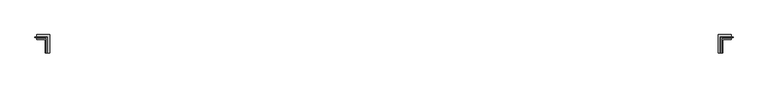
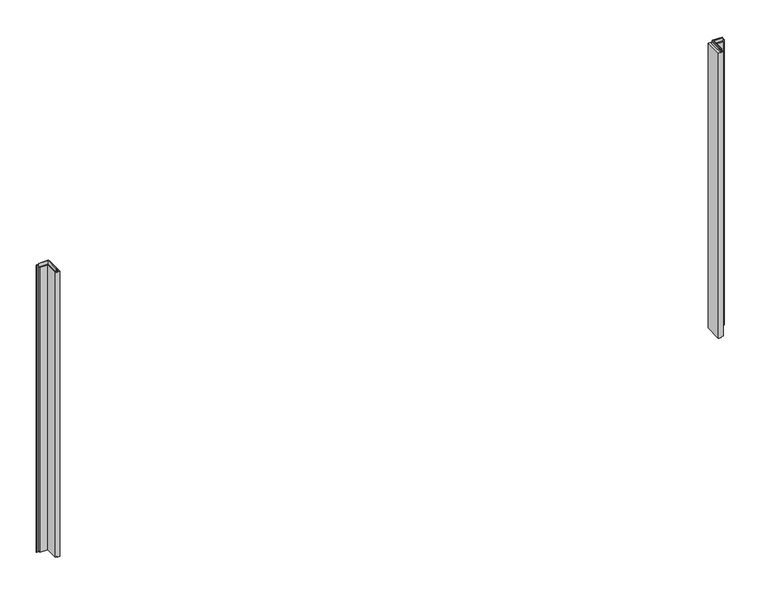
"""IFC4 building model written with IfcOpenShell, lengths in millimetres: plate geometry, Trimo_Qbiss Screen_Wall Opening Trims-HORIZONTAL : HR - B."""

from ifc_helpers import new_model, si_unit, frame, origin, origin_with_axes, place, context, project, spatial, polyline, outline, extrude, faceted_brep, source, transform, mapped, element, save


def plate_d492e9c1(model_context):
    return source(origin(), model_context, "Body", "SolidModel", [
        extrude(outline(polyline([(-3660.0, 71.0), (-3660.0, 76.0), (-3550.0, 76.0), (-3550.0, -92.0), (-3555.0, -92.0), (-3555.0, 71.0), (-3660.0, 71.0)])), frame((0.0, 0.0, 3229.8), z_axis=(0.0, 0.0, 1.0), x_axis=(1.0, 0.0, 0.0)), (0.0, 0.0, 1.0), 21.0),
        extrude(outline(polyline([(3554.0, -92.0), (3549.0, -92.0), (3549.0, 76.0), (3660.0, 76.0), (3660.0, 71.0), (3554.0, 71.0), (3554.0, -92.0)])), frame((0.0, 0.0, 3229.8), z_axis=(0.0, 0.0, 1.0), x_axis=(1.0, 0.0, 0.0)), (0.0, 0.0, 1.0), 21.0),
        faceted_brep([(-3660.0, 71.0, 3228.8), (-3660.0, 100.0, 3228.8), (-3660.0, 100.0, 0.0), (-3660.0, 72.0, 0.0), (-3660.0, 72.0, 15.5), (-3660.0, 62.0, 15.5), (-3660.0, 62.0, 7.0), (-3660.0, 50.0, 7.0), (-3660.0, 50.0, 3228.8), (-3660.0, 63.0, 3228.8), (-3660.0, 63.0, 3266.3), (-3660.0, 71.0, 3266.3), (-3554.0, 71.0, 3228.8), (-3554.0, -92.0, 3228.8), (-3525.0, -92.0, 3228.8), (-3525.0, 100.0, 3228.8), (-3525.0, 100.0, 0.0), (-3525.0, -92.0, 0.0), (-3553.0, -92.0, 0.0), (-3553.0, 72.0, 0.0), (-3553.0, 72.0, 15.5), (-3553.0, -92.0, 15.5), (-3563.0, -92.0, 15.5), (-3563.0, 62.0, 15.5), (-3563.0, 62.0, 7.0), (-3563.0, -92.0, 7.0), (-3575.0, -92.0, 7.0), (-3575.0, 50.0, 7.0), (-3575.0, 50.0, 3228.8), (-3575.0, -92.0, 3228.8), (-3562.0, -92.0, 3228.8), (-3562.0, 63.0, 3228.8), (-3562.0, 63.0, 3266.3), (-3562.0, -92.0, 3266.3), (-3554.0, -92.0, 3266.3), (-3554.0, 71.0, 3266.3)], [[[0, 1, 2, 3, 4, 5, 6, 7, 8, 9, 10, 11]], [[1, 0, 12, 13, 14, 15]], [[2, 1, 15, 16]], [[3, 2, 16, 17, 18, 19]], [[4, 3, 19, 20]], [[5, 4, 20, 21, 22, 23]], [[6, 5, 23, 24]], [[7, 6, 24, 25, 26, 27]], [[8, 7, 27, 28]], [[9, 8, 28, 29, 30, 31]], [[10, 9, 31, 32]], [[11, 10, 32, 33, 34, 35]], [[0, 11, 35, 12]], [[13, 34, 33, 30, 29, 26, 25, 22, 21, 18, 17, 14]], [[16, 15, 14, 17]], [[20, 19, 18, 21]], [[24, 23, 22, 25]], [[28, 27, 26, 29]], [[32, 31, 30, 33]], [[12, 35, 34, 13]]]),
        faceted_brep([(3554.0, -92.0, 3228.8), (3525.0, -92.0, 3228.8), (3525.0, -92.0, 0.0), (3553.0, -92.0, 0.0), (3553.0, -92.0, 15.5), (3563.0, -92.0, 15.5), (3563.0, -92.0, 7.0), (3575.0, -92.0, 7.0), (3575.0, -92.0, 3228.8), (3562.0, -92.0, 3228.8), (3562.0, -92.0, 3266.3), (3554.0, -92.0, 3266.3), (3525.0, 100.0, 0.0), (3525.0, 100.0, 3228.8), (3660.0, 100.0, 3228.8), (3660.0, 100.0, 0.0), (3553.0, 72.0, 15.5), (3553.0, 72.0, 0.0), (3660.0, 72.0, 0.0), (3660.0, 72.0, 15.5), (3563.0, 62.0, 7.0), (3563.0, 62.0, 15.5), (3660.0, 62.0, 15.5), (3660.0, 62.0, 7.0), (3575.0, 50.0, 3228.8), (3575.0, 50.0, 7.0), (3660.0, 50.0, 7.0), (3660.0, 50.0, 3228.8), (3562.0, 63.0, 3266.3), (3562.0, 63.0, 3228.8), (3660.0, 63.0, 3228.8), (3660.0, 63.0, 3266.3), (3554.0, 71.0, 3228.8), (3554.0, 71.0, 3266.3), (3660.0, 71.0, 3266.3), (3660.0, 71.0, 3228.8)], [[[0, 1, 2, 3, 4, 5, 6, 7, 8, 9, 10, 11]], [[12, 13, 14, 15]], [[16, 17, 18, 19]], [[20, 21, 22, 23]], [[24, 25, 26, 27]], [[28, 29, 30, 31]], [[32, 33, 34, 35]], [[35, 34, 31, 30, 27, 26, 23, 22, 19, 18, 15, 14]], [[1, 0, 32, 35, 14, 13]], [[2, 1, 13, 12]], [[3, 2, 12, 15, 18, 17]], [[4, 3, 17, 16]], [[5, 4, 16, 19, 22, 21]], [[6, 5, 21, 20]], [[7, 6, 20, 23, 26, 25]], [[8, 7, 25, 24]], [[9, 8, 24, 27, 30, 29]], [[10, 9, 29, 28]], [[11, 10, 28, 31, 34, 33]], [[0, 11, 33, 32]]]),
        extrude(outline(polyline([(3663.0, 76.5978162), (3682.0, 76.5978162), (3682.0, 67.8978162), (3663.0, 67.8978162), (3663.0, 76.5978162)])), origin_with_axes(), (0.0, 0.0, 1.0), 3228.8),
        extrude(outline(polyline([(-3663.0, 76.5978162), (-3663.0, 67.8978162), (-3682.0, 67.8978162), (-3682.0, 76.5978162), (-3663.0, 76.5978162)])), origin_with_axes(), (0.0, 0.0, 1.0), 3251.8),
    ])


if __name__ == "__main__":
    model = new_model("IFC4")
    model_context = context("Model", 3, world=origin())
    ifc_project = project(units=[si_unit("LENGTHUNIT", "METRE", prefix="MILLI")], contexts=[model_context])
    site = spatial("IfcSite", under=ifc_project)
    building = spatial("IfcBuilding", under=site)
    placement = place(None, origin())
    plate_shape = plate_d492e9c1(model_context)
    element("IfcPlate", 1, ObjectType="Trimo_Qbiss Screen_Wall Opening Trims-HORIZONTAL : HR - B", at=placement, inside=building, context=model_context, shape_type="MappedRepresentation", body=[
        mapped(plate_shape, transform((0.0, 0.0, 0.0), x_axis=(1.0, 0.0, 0.0), y_axis=(0.0, 1.0, 0.0), z_axis=(0.0, 0.0, 1.0))),
    ])
    save(model, "model.ifc")
